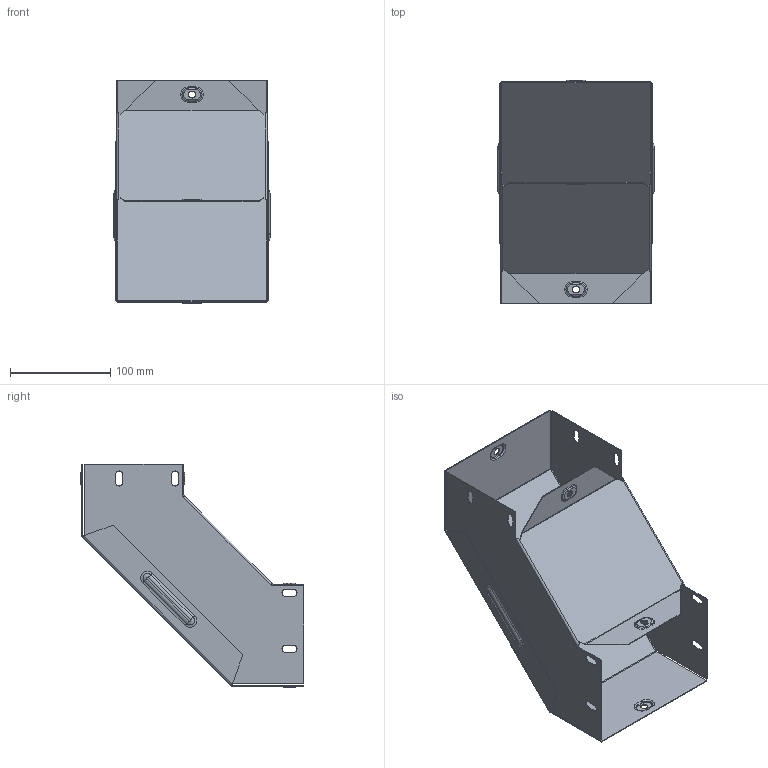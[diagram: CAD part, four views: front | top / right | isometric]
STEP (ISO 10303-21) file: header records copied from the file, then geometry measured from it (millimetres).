
FILE_DESCRIPTION (( 'STEP AP214' ), '1' );
FILE_NAME ('vo90100150_捘.STEP', '2019-06-10T09:07:19', ( '砐錪賧瘔蠈錪 Windows' ), ( '' ), 'SwSTEP 2.0', 'SolidWorks 2018', '' );
FILE_SCHEMA (( 'AUTOMOTIVE_DESIGN' ));
Length unit declared in the file: millimetre
Products named in the file (1): vo90100150_捘
Bounding box: 155.6 x 222.31 x 222.31 mm (x, y, z)
Volume: 113321.6 mm3; surface area: 285753.5 mm2
Topology: 2 solids, 2 shells, 280 faces, 660 edges, 400 vertices
Faces by surface type: cylinder 108, plane 100, torus 64, bspline 8
Entity records: 8251 total; most frequent: CARTESIAN_POINT 1589, DIRECTION 1470, ORIENTED_EDGE 1320, EDGE_CURVE 660, AXIS2_PLACEMENT_3D 569, VERTEX_POINT 400, VECTOR 332, LINE 332
